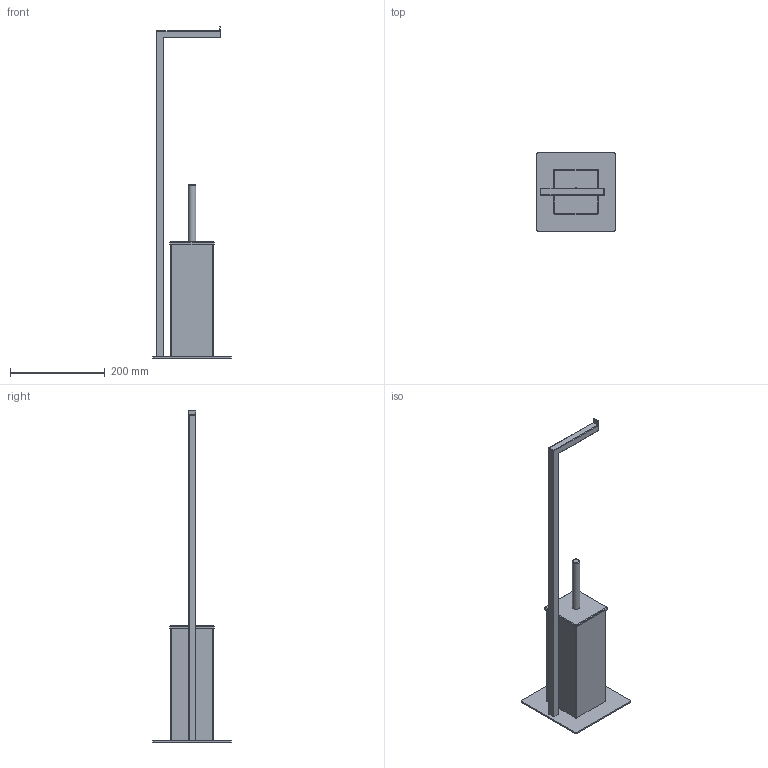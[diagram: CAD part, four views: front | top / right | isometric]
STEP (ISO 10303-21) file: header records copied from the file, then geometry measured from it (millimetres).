
FILE_DESCRIPTION (( 'STEP AP203' ), '1' );
FILE_NAME ('Szczotka do WC i uchwyt na papier QUARIO.STEP', '2022-04-01T10:37:42', ( '' ), ( '' ), 'SwSTEP 2.0', 'SolidWorks 2021', '' );
FILE_SCHEMA (( 'CONFIG_CONTROL_DESIGN' ));
Length unit declared in the file: millimetre
Products named in the file (1): Szczotka do WC i uchwyt na papier QUARIO
Bounding box: 166 x 166 x 700 mm (x, y, z)
Volume: 2250885.1 mm3; surface area: 198057.9 mm2
Topology: 1 solids, 1 shells, 66 faces, 162 edges, 96 vertices
Faces by surface type: cylinder 30, plane 26, sphere 6, torus 4
Entity records: 1971 total; most frequent: DIRECTION 356, CARTESIAN_POINT 319, ORIENTED_EDGE 312, EDGE_CURVE 156, AXIS2_PLACEMENT_3D 133, VERTEX_POINT 96, VECTOR 90, LINE 90
